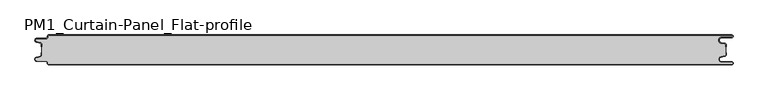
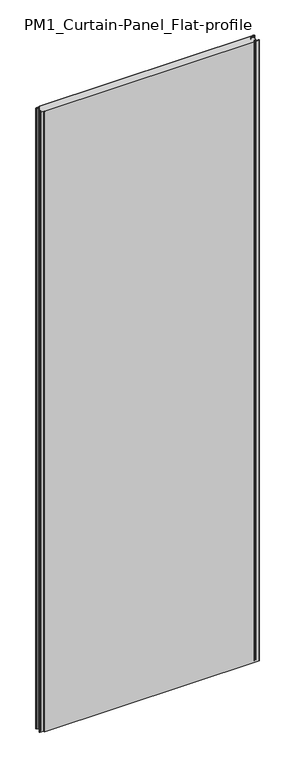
"""IFC4 building model written with IfcOpenShell, lengths in millimetres: plate geometry, PM1_Curtain-Panel_Flat-profile : ACH_PM1_Stone-wool-Panel_50M."""

from ifc_helpers import new_model, si_unit, point, frame_2d, origin, origin_with_axes, place, context, project, spatial, polyline, circle_curve, trimmed, segment, composite_curve, outline, extrude, source, transform, mapped, element, save


def pm1_curtain_panel_flat_profile_ec73de58(model_context):
    return source(origin(), model_context, "Body", "SweptSolid", [
        extrude(outline(composite_curve([segment(polyline([(-562.4, 0.0), (583.1, 0.0)]), True, "CONTINUOUS"), segment(trimmed(circle_curve(frame_2d((583.1, -2.5)), 2.5), [point((583.1, 0.0))], [point((583.1, -5.0))], False, "CARTESIAN"), True, "CONTINUOUS"), segment(polyline([(583.1, -5.0), (566.1, -5.0)]), True, "CONTINUOUS"), segment(trimmed(circle_curve(frame_2d((566.1, -9.0)), 4.0), [point((566.1, -5.0))], [point((565.4054075, -12.939231))], True, "CARTESIAN"), True, "CONTINUOUS"), segment(polyline([(565.4054075, -12.939231), (571.8514851, -14.075848)]), True, "CONTINUOUS"), segment(trimmed(circle_curve(frame_2d((571.4, -16.636348)), 2.6), [point((571.8514851, -14.075848))], [point((574.0, -16.636348))], False, "CARTESIAN"), True, "CONTINUOUS"), segment(polyline([(574.0, -16.636348), (574.0, -20.0), (573.2, -20.0), (573.2, -16.636348)]), True, "CONTINUOUS"), segment(trimmed(circle_curve(frame_2d((571.4, -16.636348)), 1.8), [point((573.2, -16.636348))], [point((571.7125666, -14.863694))], True, "CARTESIAN"), True, "CONTINUOUS"), segment(polyline([(571.7125666, -14.863694), (565.266489, -13.7270771)]), True, "CONTINUOUS"), segment(trimmed(circle_curve(frame_2d((566.1, -9.0)), 4.8), [point((565.266489, -13.7270771))], [point((566.1, -4.2))], False, "CARTESIAN"), True, "CONTINUOUS"), segment(polyline([(566.1, -4.2), (583.1, -4.2)]), True, "CONTINUOUS"), segment(trimmed(circle_curve(frame_2d((583.1, -2.5)), 1.7), [point((583.1, -4.2))], [point((583.1, -0.8))], True, "CARTESIAN"), True, "CONTINUOUS"), segment(polyline([(583.1, -0.8), (-562.4, -0.8)]), True, "CONTINUOUS"), segment(trimmed(circle_curve(frame_2d((-562.4, -2.0)), 1.2), [point((-562.4, -0.8))], [point((-563.6, -2.0))], True, "CARTESIAN"), True, "CONTINUOUS"), segment(polyline([(-563.6, -2.0), (-563.6, -3.4)]), True, "CONTINUOUS"), segment(trimmed(circle_curve(frame_2d((-566.4, -3.4)), 2.8), [point((-563.6, -3.4))], [point((-566.4, -6.2))], False, "CARTESIAN"), True, "CONTINUOUS"), segment(polyline([(-566.4, -6.2), (-581.9, -6.2)]), True, "CONTINUOUS"), segment(trimmed(circle_curve(frame_2d((-581.9, -9.0)), 2.8), [point((-581.9, -6.2))], [point((-582.529863, -11.7282362))], True, "CARTESIAN"), True, "CONTINUOUS"), segment(polyline([(-582.529863, -11.7282362), (-576.370137, -13.150321)]), True, "CONTINUOUS"), segment(trimmed(circle_curve(frame_2d((-577.0, -15.878557)), 2.8), [point((-576.370137, -13.150321))], [point((-574.2, -15.878557))], False, "CARTESIAN"), True, "CONTINUOUS"), segment(polyline([(-574.2, -15.878557), (-574.2, -20.0), (-575.0, -20.0), (-575.0, -15.878557)]), True, "CONTINUOUS"), segment(trimmed(circle_curve(frame_2d((-577.0, -15.878557)), 2.0), [point((-575.0, -15.878557))], [point((-576.5500978, -13.9298169))], True, "CARTESIAN"), True, "CONTINUOUS"), segment(polyline([(-576.5500978, -13.9298169), (-582.7098239, -12.507732)]), True, "CONTINUOUS"), segment(trimmed(circle_curve(frame_2d((-581.9, -9.0)), 3.6), [point((-582.7098239, -12.507732))], [point((-581.9, -5.4))], False, "CARTESIAN"), True, "CONTINUOUS"), segment(polyline([(-581.9, -5.4), (-566.4, -5.4)]), True, "CONTINUOUS"), segment(trimmed(circle_curve(frame_2d((-566.4, -3.4)), 2.0), [point((-566.4, -5.4))], [point((-564.4, -3.4))], True, "CARTESIAN"), True, "CONTINUOUS"), segment(polyline([(-564.4, -3.4), (-564.4, -2.0)]), True, "CONTINUOUS"), segment(trimmed(circle_curve(frame_2d((-562.4, -2.0)), 2.0), [point((-564.4, -2.0))], [point((-562.4, 0.0))], False, "CARTESIAN"), True, "CONTINUOUS")], self_intersect=False)), origin_with_axes(), (0.0, 0.0, 1.0), 3500.0),
        extrude(outline(composite_curve([segment(polyline([(-574.2, -34.1214426), (-574.2, -15.8785573)]), True, "CONTINUOUS"), segment(trimmed(circle_curve(frame_2d((-577.0, -15.8785573)), 2.8), [point((-574.2, -15.8785573))], [point((-576.370137, -13.1503212))], True, "CARTESIAN"), True, "CONTINUOUS"), segment(polyline([(-576.370137, -13.1503212), (-582.5298631, -11.7282362)]), True, "CONTINUOUS"), segment(trimmed(circle_curve(frame_2d((-581.9, -9.0)), 2.8), [point((-582.5298631, -11.7282362))], [point((-581.9, -6.2))], False, "CARTESIAN"), True, "CONTINUOUS"), segment(polyline([(-581.9, -6.2), (-566.4000001, -6.2)]), True, "CONTINUOUS"), segment(trimmed(circle_curve(frame_2d((-566.4000001, -3.4)), 2.8), [point((-566.4000001, -6.2))], [point((-563.6000001, -3.4))], True, "CARTESIAN"), True, "CONTINUOUS"), segment(polyline([(-563.6000001, -3.4), (-563.6000001, -2.0)]), True, "CONTINUOUS"), segment(trimmed(circle_curve(frame_2d((-562.4000001, -2.0)), 1.2), [point((-563.6000001, -2.0))], [point((-562.4000001, -0.8))], False, "CARTESIAN"), True, "CONTINUOUS"), segment(polyline([(-562.4000001, -0.8), (583.1, -0.8)]), True, "CONTINUOUS"), segment(trimmed(circle_curve(frame_2d((583.1, -2.5)), 1.7), [point((583.1, -0.8))], [point((583.1, -4.2))], False, "CARTESIAN"), True, "CONTINUOUS"), segment(polyline([(583.1, -4.2), (566.1, -4.2)]), True, "CONTINUOUS"), segment(trimmed(circle_curve(frame_2d((566.1, -9.0)), 4.8), [point((566.1, -4.2))], [point((565.2664883, -13.7270771))], True, "CARTESIAN"), True, "CONTINUOUS"), segment(polyline([(565.2664883, -13.7270771), (571.7125668, -14.8636953)]), True, "CONTINUOUS"), segment(trimmed(circle_curve(frame_2d((571.4, -16.6363492)), 1.8), [point((571.7125668, -14.8636953))], [point((573.2, -16.6363492))], False, "CARTESIAN"), True, "CONTINUOUS"), segment(polyline([(573.2, -16.6363492), (573.2, -33.3636508)]), True, "CONTINUOUS"), segment(trimmed(circle_curve(frame_2d((571.4, -33.3636508)), 1.8), [point((573.2, -33.3636508))], [point((571.7125668, -35.1363047))], False, "CARTESIAN"), True, "CONTINUOUS"), segment(polyline([(571.7125668, -35.1363047), (565.2664883, -36.2729229)]), True, "CONTINUOUS"), segment(trimmed(circle_curve(frame_2d((566.1, -41.0)), 4.8), [point((565.2664883, -36.2729229))], [point((566.1, -45.8))], True, "CARTESIAN"), True, "CONTINUOUS"), segment(polyline([(566.1, -45.8), (583.1, -45.8)]), True, "CONTINUOUS"), segment(trimmed(circle_curve(frame_2d((583.1, -47.5)), 1.7), [point((583.1, -45.8))], [point((583.1, -49.2))], False, "CARTESIAN"), True, "CONTINUOUS"), segment(polyline([(583.1, -49.2), (-562.4000001, -49.2)]), True, "CONTINUOUS"), segment(trimmed(circle_curve(frame_2d((-562.4000001, -48.0)), 1.2), [point((-562.4000001, -49.2))], [point((-563.6000001, -48.0))], False, "CARTESIAN"), True, "CONTINUOUS"), segment(polyline([(-563.6000001, -48.0), (-563.6000001, -46.6)]), True, "CONTINUOUS"), segment(trimmed(circle_curve(frame_2d((-566.4000001, -46.6)), 2.8), [point((-563.6000001, -46.6))], [point((-566.4000001, -43.8))], True, "CARTESIAN"), True, "CONTINUOUS"), segment(polyline([(-566.4000001, -43.8), (-581.9, -43.8)]), True, "CONTINUOUS"), segment(trimmed(circle_curve(frame_2d((-581.9, -41.0)), 2.8), [point((-581.9, -43.8))], [point((-582.5298631, -38.2717638))], False, "CARTESIAN"), True, "CONTINUOUS"), segment(polyline([(-582.5298631, -38.2717638), (-576.370137, -36.8496788)]), True, "CONTINUOUS"), segment(trimmed(circle_curve(frame_2d((-577.0, -34.1214426)), 2.8), [point((-576.370137, -36.8496788))], [point((-574.2, -34.1214426))], True, "CARTESIAN"), True, "CONTINUOUS")], self_intersect=False)), origin_with_axes(), (0.0, 0.0, 1.0), 3500.0),
        extrude(outline(composite_curve([segment(polyline([(583.1, -50.0), (-562.4, -50.0)]), True, "CONTINUOUS"), segment(trimmed(circle_curve(frame_2d((-562.4, -48.0)), 2.0), [point((-562.4, -50.0))], [point((-564.4, -48.0))], False, "CARTESIAN"), True, "CONTINUOUS"), segment(polyline([(-564.4, -48.0), (-564.4, -46.6)]), True, "CONTINUOUS"), segment(trimmed(circle_curve(frame_2d((-566.4, -46.6)), 2.0), [point((-564.4, -46.6))], [point((-566.4, -44.6))], True, "CARTESIAN"), True, "CONTINUOUS"), segment(polyline([(-566.4, -44.6), (-581.9, -44.6)]), True, "CONTINUOUS"), segment(trimmed(circle_curve(frame_2d((-581.9, -41.0)), 3.6), [point((-581.9, -44.6))], [point((-582.7098239, -37.4922678))], False, "CARTESIAN"), True, "CONTINUOUS"), segment(polyline([(-582.7098239, -37.4922678), (-576.5500979, -36.070183)]), True, "CONTINUOUS"), segment(trimmed(circle_curve(frame_2d((-577.0, -34.121443)), 2.0), [point((-576.5500979, -36.070183))], [point((-575.0, -34.121443))], True, "CARTESIAN"), True, "CONTINUOUS"), segment(polyline([(-575.0, -34.121443), (-575.0, -30.0), (-574.2, -30.0), (-574.2, -34.121443)]), True, "CONTINUOUS"), segment(trimmed(circle_curve(frame_2d((-577.0, -34.121443)), 2.8), [point((-574.2, -34.121443))], [point((-576.370137, -36.8496792))], False, "CARTESIAN"), True, "CONTINUOUS"), segment(polyline([(-576.370137, -36.8496792), (-582.529863, -38.271764)]), True, "CONTINUOUS"), segment(trimmed(circle_curve(frame_2d((-581.9, -41.0)), 2.8), [point((-582.529863, -38.271764))], [point((-581.9, -43.8))], True, "CARTESIAN"), True, "CONTINUOUS"), segment(polyline([(-581.9, -43.8), (-566.4, -43.8)]), True, "CONTINUOUS"), segment(trimmed(circle_curve(frame_2d((-566.4, -46.6)), 2.8), [point((-566.4, -43.8))], [point((-563.6, -46.6))], False, "CARTESIAN"), True, "CONTINUOUS"), segment(polyline([(-563.6, -46.6), (-563.6, -48.0)]), True, "CONTINUOUS"), segment(trimmed(circle_curve(frame_2d((-562.4, -48.0)), 1.2), [point((-563.6, -48.0))], [point((-562.4, -49.2))], True, "CARTESIAN"), True, "CONTINUOUS"), segment(polyline([(-562.4, -49.2), (583.1, -49.2)]), True, "CONTINUOUS"), segment(trimmed(circle_curve(frame_2d((583.1, -47.5)), 1.7), [point((583.1, -49.2))], [point((583.1, -45.8))], True, "CARTESIAN"), True, "CONTINUOUS"), segment(polyline([(583.1, -45.8), (566.1, -45.8)]), True, "CONTINUOUS"), segment(trimmed(circle_curve(frame_2d((566.1, -41.0)), 4.8), [point((566.1, -45.8))], [point((565.266489, -36.2729227))], False, "CARTESIAN"), True, "CONTINUOUS"), segment(polyline([(565.266489, -36.2729227), (571.7125666, -35.1363058)]), True, "CONTINUOUS"), segment(trimmed(circle_curve(frame_2d((571.4, -33.363652)), 1.8), [point((571.7125666, -35.1363058))], [point((573.2, -33.363652))], True, "CARTESIAN"), True, "CONTINUOUS"), segment(polyline([(573.2, -33.363652), (573.2, -30.0), (574.0, -30.0), (574.0, -33.363652)]), True, "CONTINUOUS"), segment(trimmed(circle_curve(frame_2d((571.4, -33.363652)), 2.6), [point((574.0, -33.363652))], [point((571.8514851, -35.9241522))], False, "CARTESIAN"), True, "CONTINUOUS"), segment(polyline([(571.8514851, -35.9241522), (565.4054075, -37.0607691)]), True, "CONTINUOUS"), segment(trimmed(circle_curve(frame_2d((566.1, -41.0)), 4.0), [point((565.4054075, -37.0607691))], [point((566.1, -45.0))], True, "CARTESIAN"), True, "CONTINUOUS"), segment(polyline([(566.1, -45.0), (583.1, -45.0)]), True, "CONTINUOUS"), segment(trimmed(circle_curve(frame_2d((583.1, -47.5)), 2.5), [point((583.1, -45.0))], [point((583.1, -50.0))], False, "CARTESIAN"), True, "CONTINUOUS")], self_intersect=False)), origin_with_axes(), (0.0, 0.0, 1.0), 3500.0),
    ])


if __name__ == "__main__":
    model = new_model("IFC4")
    model_context = context("Model", 3, world=origin())
    ifc_project = project(units=[si_unit("LENGTHUNIT", "METRE", prefix="MILLI")], contexts=[model_context])
    site = spatial("IfcSite", under=ifc_project)
    building = spatial("IfcBuilding", under=site)
    placement = place(None, origin())
    pm1_curtain_panel_flat_profile_shape = pm1_curtain_panel_flat_profile_ec73de58(model_context)
    element("IfcPlate", 1, ObjectType="PM1_Curtain-Panel_Flat-profile : ACH_PM1_Stone-wool-Panel_50M", at=placement, inside=building, context=model_context, shape_type="MappedRepresentation", body=[
        mapped(pm1_curtain_panel_flat_profile_shape, transform((0.0, 0.0, 0.0), x_axis=(1.0, 0.0, 0.0), y_axis=(0.0, 1.0, 0.0), z_axis=(0.0, 0.0, 1.0))),
    ])
    save(model, "model.ifc")
